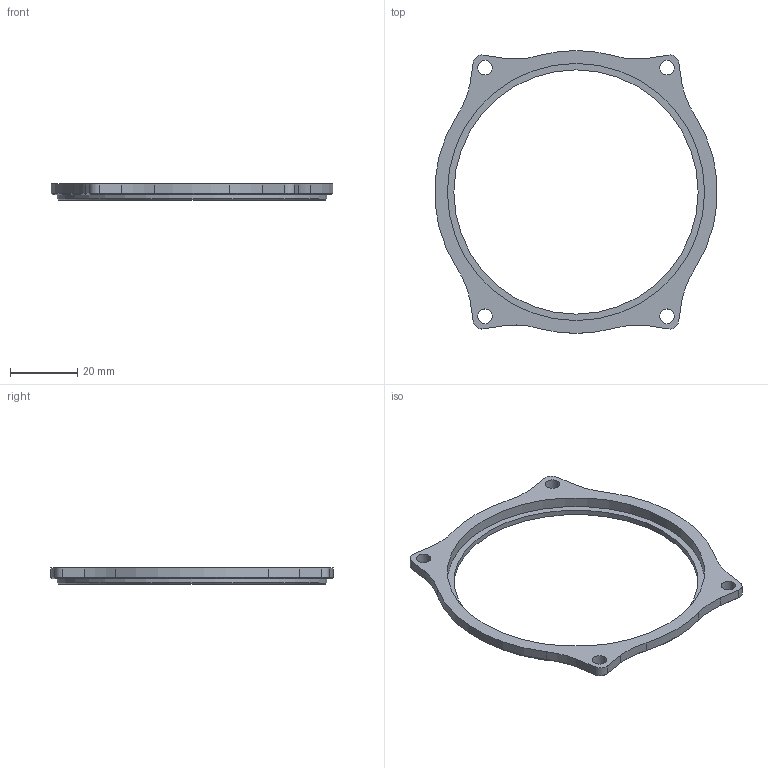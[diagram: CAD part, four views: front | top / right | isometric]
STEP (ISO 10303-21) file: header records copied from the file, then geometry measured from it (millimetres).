
FILE_DESCRIPTION(/* description */ ('STEP AP242 Edition 2','CAx-IF Rec.Pracs.---Representation and Presentation of Product Manufacturing Information (PMI)---4.0---2014-10-13','CAx-IF Rec.Pracs.---3D Tessellated Geometry---0.4---2014-09-14','2;1','CAx-IF Rec.Pracs.---User Defined Attributes---1.5---2016-08-15'),/* implementation_level */ '2;1');
FILE_NAME(/* name */ 'Main - Bearing retention plate',/* time_stamp */ '2026-09-13T15:49:56Z',/* author */ (''),/* organization */ (''),/* preprocessor_version */ 'ST-DEVELOPER v20',/* originating_system */ 'ONSHAPE BY PTC INC, 1.220',/* authorisation */ ' ');
FILE_SCHEMA (('AP242_MANAGED_MODEL_BASED_3D_ENGINEERING_MIM_LF { 1 0 10303 442 3 1 4 }'));
Length unit declared in the file: metre
Products named in the file (1): Bearing retention plate
Bounding box: 83.54 x 83.82 x 4.76 mm (x, y, z)
Volume: 5401.7 mm3; surface area: 5896 mm2
Topology: 1 solids, 1 shells, 60 faces, 143 edges, 87 vertices
Faces by surface type: cylinder 23, plane 20, cone 17
Full cylindrical faces by diameter (mm): 4.318 x4, 72.39 x1, 76.2 x1, 80.01 x1
Entity records: 1746 total; most frequent: CARTESIAN_POINT 325, DIRECTION 306, ORIENTED_EDGE 270, EDGE_CURVE 135, AXIS2_PLACEMENT_3D 124, VERTEX_POINT 87, EDGE_LOOP 80, FACE_BOUND 80
